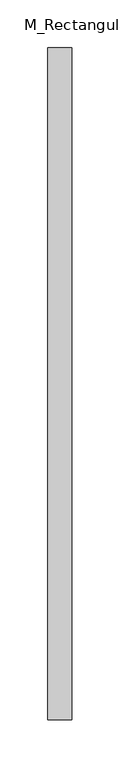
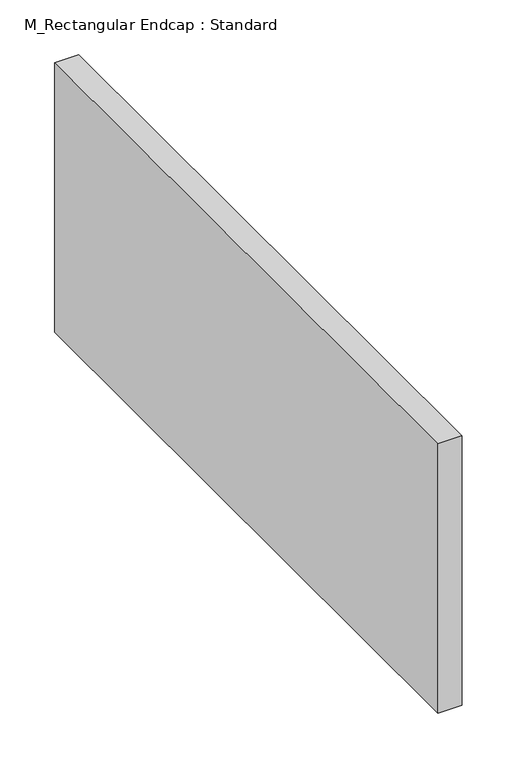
"""IFC4 building model written with IfcOpenShell, lengths in millimetres: duct fitting geometry, M_Rectangular Endcap : Standard."""

from ifc_helpers import new_model, si_unit, frame, origin, place, context, project, spatial, polyline, outline, extrude, source, transform, mapped, element, save


def m_rectangular_endcap_standard_7d4e98f4(model_context):
    return source(origin(), model_context, "Body", "SweptSolid", [
        extrude(outline(polyline([(0.0, -350.0), (0.0, 350.0), (25.0, 350.0), (25.0, -350.0), (0.0, -350.0)])), frame((0.0, 0.0, -150.0), z_axis=(0.0, 0.0, 1.0), x_axis=(1.0, 0.0, 0.0)), (0.0, 0.0, 1.0), 300.0),
    ])


if __name__ == "__main__":
    model = new_model("IFC4")
    model_context = context("Model", 3, world=origin())
    ifc_project = project(units=[si_unit("LENGTHUNIT", "METRE", prefix="MILLI")], contexts=[model_context])
    site = spatial("IfcSite", under=ifc_project)
    building = spatial("IfcBuilding", under=site)
    placement = place(None, origin())
    m_rectangular_endcap_standard_shape = m_rectangular_endcap_standard_7d4e98f4(model_context)
    element("IfcDuctFitting", 1, ObjectType="M_Rectangular Endcap : Standard", at=placement, inside=building, context=model_context, shape_type="MappedRepresentation", body=[
        mapped(m_rectangular_endcap_standard_shape, transform((0.0, 0.0, 0.0), x_axis=(1.0, 0.0, 0.0), y_axis=(0.0, 1.0, 0.0), z_axis=(0.0, 0.0, 1.0))),
    ])
    save(model, "model.ifc")
